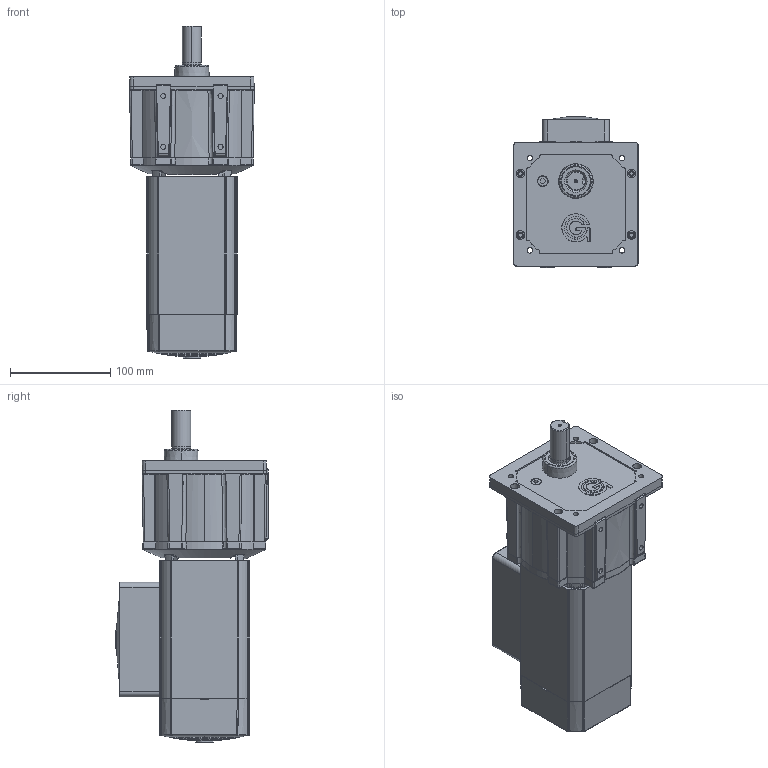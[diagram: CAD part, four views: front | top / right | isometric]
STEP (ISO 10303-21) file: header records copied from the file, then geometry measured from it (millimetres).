
FILE_DESCRIPTION (( 'STEP AP214' ), '1' );
FILE_NAME ('AC8040FC-PS2300.STEP', '2016-04-27T13:27:53', ( '' ), ( '' ), 'SwSTEP 2.0', 'SolidWorks 2015', '' );
FILE_SCHEMA (( 'AUTOMOTIVE_DESIGN' ));
Length unit declared in the file: millimetre
Products named in the file (1): AC8040FC-PS2300
Bounding box: 124.55 x 151.73 x 331.3 mm (x, y, z)
Surface area: 216063.1 mm2 (no closed solid volume)
Topology: 0 solids, 24 shells, 1127 faces, 3711 edges, 2509 vertices
Faces by surface type: plane 597, cylinder 225, bspline 118, cone 91, torus 70, sphere 26
Entity records: 57723 total; most frequent: CARTESIAN_POINT 13470, DIRECTION 7030, ORIENTED_EDGE 6125, EDGE_CURVE 3679, AXIS2_PLACEMENT_3D 2818, VERTEX_POINT 2501, CIRCLE 1808, VECTOR 1394
